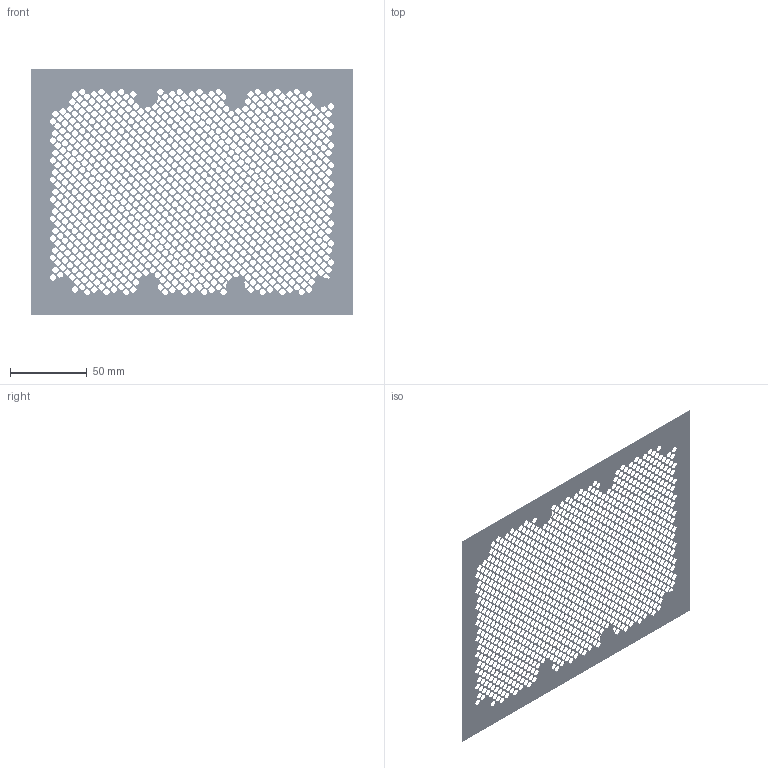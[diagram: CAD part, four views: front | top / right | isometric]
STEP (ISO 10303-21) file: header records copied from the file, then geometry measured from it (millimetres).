
FILE_DESCRIPTION (( 'STEP AP214' ), '1' );
FILE_NAME ('StencilMask.STEP', '2021-04-27T00:34:49', ( '' ), ( '' ), 'SwSTEP 2.0', 'SolidWorks 2019', '' );
FILE_SCHEMA (( 'AUTOMOTIVE_DESIGN' ));
Length unit declared in the file: millimetre
Products named in the file (1): StencilMask
Bounding box: 210 x 0.15 x 160 mm (x, y, z)
Volume: 2935.7 mm3; surface area: 41462.4 mm2
Topology: 1 solids, 1 shells, 10290 faces, 30864 edges, 20576 vertices
Faces by surface type: cylinder 5716, plane 4574
Entity records: 355566 total; most frequent: DIRECTION 62878, CARTESIAN_POINT 61731, ORIENTED_EDGE 61728, EDGE_CURVE 30864, AXIS2_PLACEMENT_3D 21723, VERTEX_POINT 20576, VECTOR 19432, LINE 19432
